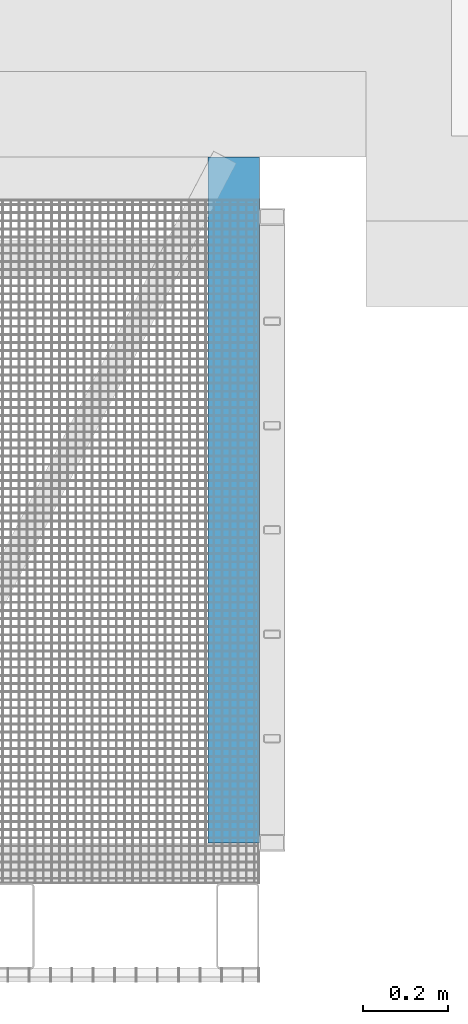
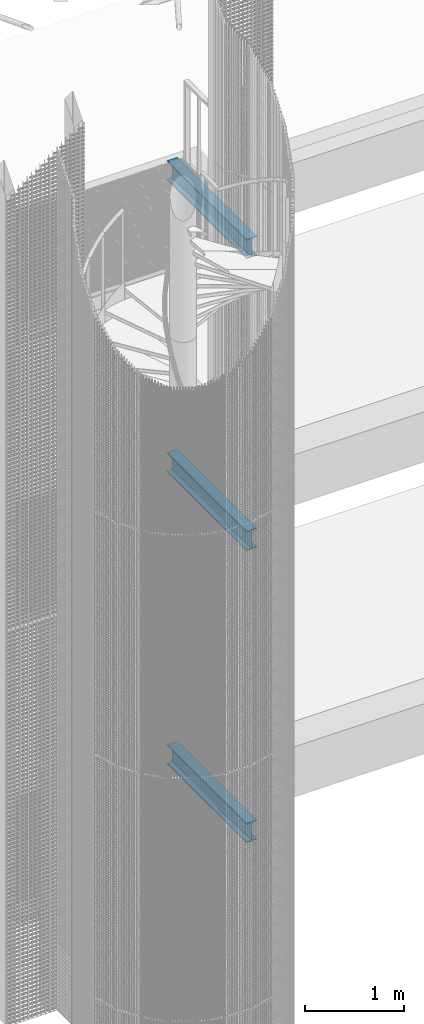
# One storey, part 103 of 1183: 3 beams, 3 elements without a shape of their own.
"""IFC2X3 building model written with IfcOpenShell, lengths in millimetres."""

from ifc_helpers import new_model, si_unit, frame, origin_with_axes, origin_2d_with_axis, place, context, subcontext, project, spatial, i_section, extrude, material, type_object, element, aggregate, save


model = new_model("IFC2X3")

# Units and contexts
model_context = context("Model", 3, precision=1e-05, world=origin_with_axes())
body_context = subcontext(model_context, "Body", "Model", "MODEL_VIEW")
ifc_project = project(units=[si_unit("LENGTHUNIT", "METRE", prefix="MILLI"), si_unit("AREAUNIT", "SQUARE_METRE"), si_unit("VOLUMEUNIT", "CUBIC_METRE"), si_unit("MASSUNIT", "GRAM", prefix="KILO"), si_unit("TIMEUNIT", "SECOND"), si_unit("PLANEANGLEUNIT", "RADIAN"), si_unit("SOLIDANGLEUNIT", "STERADIAN"), si_unit("THERMODYNAMICTEMPERATUREUNIT", "DEGREE_CELSIUS"), si_unit("LUMINOUSINTENSITYUNIT", "LUMEN")], contexts=[model_context])

# Site, building, storey
site_placement = place(None, origin_with_axes())
site = spatial("IfcSite", under=ifc_project, at=site_placement, Name="Undefined", CompositionType="ELEMENT")
building_placement = place(site_placement, origin_with_axes())
building = spatial("IfcBuilding", under=site, at=building_placement, Name="Undefined", CompositionType="ELEMENT")
storey_placement = place(building_placement, origin_with_axes())
storey = spatial("IfcBuildingStorey", under=building, at=storey_placement, Name="Undefined", CompositionType="ELEMENT", Elevation=0.0)

# Assembly, beam
assembly_1_placement = place(storey_placement, origin_with_axes())
assembly_1 = element("IfcElementAssembly", 1, at=assembly_1_placement, inside=storey, AssemblyPlace="NOTDEFINED", PredefinedType="NOTDEFINED")
ifc_material = material(Name="STEEL/S235JR")
beam_type = type_object("IfcBeamType", Name="IPE240", PredefinedType="NOTDEFINED")
beam_1_placement = place(assembly_1_placement, frame((23090.1104345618, 1195.00969459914, 13520.0), z_axis=(0.0, 0.0, 1.0), x_axis=(-4.50599999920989e-06, 0.999999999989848, 0.0)))
beam_1 = element("IfcBeam", 2, at=beam_1_placement, type_object=beam_type, material=ifc_material, Name="EXISTANTS", context=body_context, shape_type="SweptSolid", body=[
    extrude(i_section(OverallWidth=120.0, OverallDepth=240.0, WebThickness=6.199999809, FlangeThickness=9.800000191, FilletRadius=15.0, at=origin_2d_with_axis()), frame((1604.99832798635, 0.0, 3.63797880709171e-12), z_axis=(-1.0, 0.0, 0.0), x_axis=(0.0, -1.0, 0.0)), (0.0, 0.0, 1.0), 1605.0),
])
aggregate(assembly_1, [beam_1])

assembly_2_placement = place(storey_placement, origin_with_axes())
assembly_2 = element("IfcElementAssembly", 3, at=assembly_2_placement, inside=storey, AssemblyPlace="NOTDEFINED", PredefinedType="NOTDEFINED")
beam_2_placement = place(assembly_2_placement, frame((23090.1104345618, 1195.00969459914, 9920.0), z_axis=(0.0, 0.0, 1.0), x_axis=(-4.50599999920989e-06, 0.999999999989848, 0.0)))
beam_2 = element("IfcBeam", 4, at=beam_2_placement, type_object=beam_type, material=ifc_material, Name="EXISTANTS", context=body_context, shape_type="SweptSolid", body=[
    extrude(i_section(OverallWidth=120.0, OverallDepth=240.0, WebThickness=6.199999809, FlangeThickness=9.800000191, FilletRadius=15.0, at=origin_2d_with_axis()), frame((1604.99832798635, 0.0, 3.63797880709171e-12), z_axis=(-1.0, 0.0, 0.0), x_axis=(0.0, -1.0, 0.0)), (0.0, 0.0, 1.0), 1605.0),
])
aggregate(assembly_2, [beam_2])

assembly_3_placement = place(storey_placement, origin_with_axes())
assembly_3 = element("IfcElementAssembly", 5, at=assembly_3_placement, inside=storey, AssemblyPlace="NOTDEFINED", PredefinedType="NOTDEFINED")
beam_3_placement = place(assembly_3_placement, frame((23090.1104345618, 1195.00969459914, 6320.0), z_axis=(0.0, 0.0, 1.0), x_axis=(-4.50599999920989e-06, 0.999999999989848, 0.0)))
beam_3 = element("IfcBeam", 6, at=beam_3_placement, type_object=beam_type, material=ifc_material, Name="EXISTANTS", context=body_context, shape_type="SweptSolid", body=[
    extrude(i_section(OverallWidth=120.0, OverallDepth=240.0, WebThickness=6.199999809, FlangeThickness=9.800000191, FilletRadius=15.0, at=origin_2d_with_axis()), frame((1604.99832798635, 0.0, 3.63797880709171e-12), z_axis=(-1.0, 0.0, 0.0), x_axis=(0.0, -1.0, 0.0)), (0.0, 0.0, 1.0), 1605.0),
])
aggregate(assembly_3, [beam_3])

save(model, "model.ifc")
